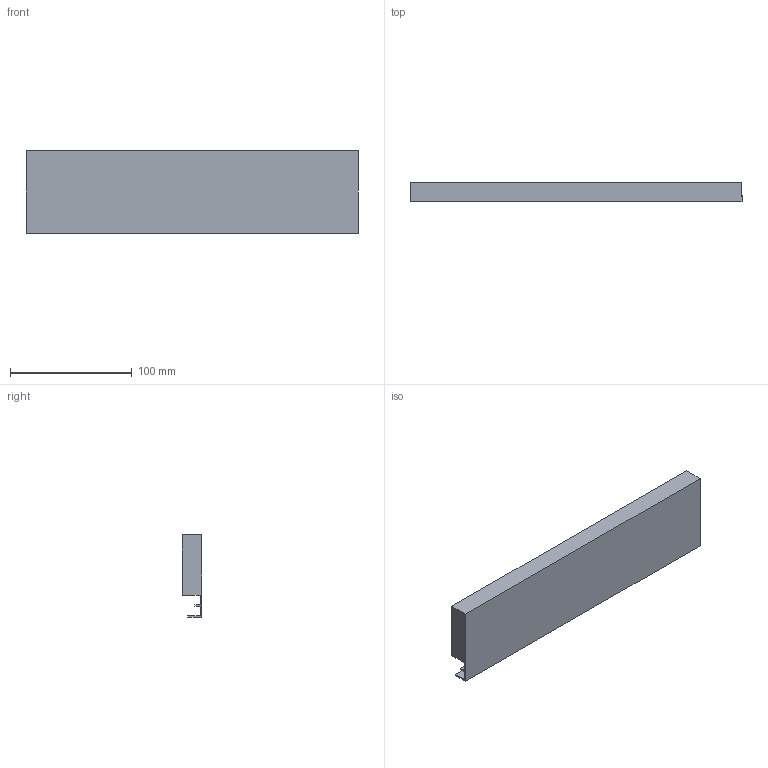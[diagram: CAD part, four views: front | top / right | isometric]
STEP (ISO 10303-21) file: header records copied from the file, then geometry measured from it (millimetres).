
FILE_DESCRIPTION (( 'STEP AP214' ), '1' );
FILE_NAME ('Innenschub-Blendenprofil_KAB400_S18.step', '2010-09-23T12:26:57', ( 'grass' ), ( '' ), 'SwSTEP 2.0', 'SolidWorks 2010', '' );
FILE_SCHEMA (( 'AUTOMOTIVE_DESIGN' ));
Length unit declared in the file: millimetre
Products named in the file (1): Innenschub-Blendenprofil_KAB400_S18
Bounding box: 273 x 15.9 x 67.6 mm (x, y, z)
Volume: 226332.3 mm3; surface area: 55255.6 mm2
Topology: 1 solids, 1 shells, 17 faces, 42 edges, 28 vertices
Faces by surface type: plane 15, cylinder 2
Entity records: 534 total; most frequent: CARTESIAN_POINT 88, ORIENTED_EDGE 84, DIRECTION 82, EDGE_CURVE 42, VECTOR 38, LINE 38, VERTEX_POINT 28, AXIS2_PLACEMENT_3D 22
